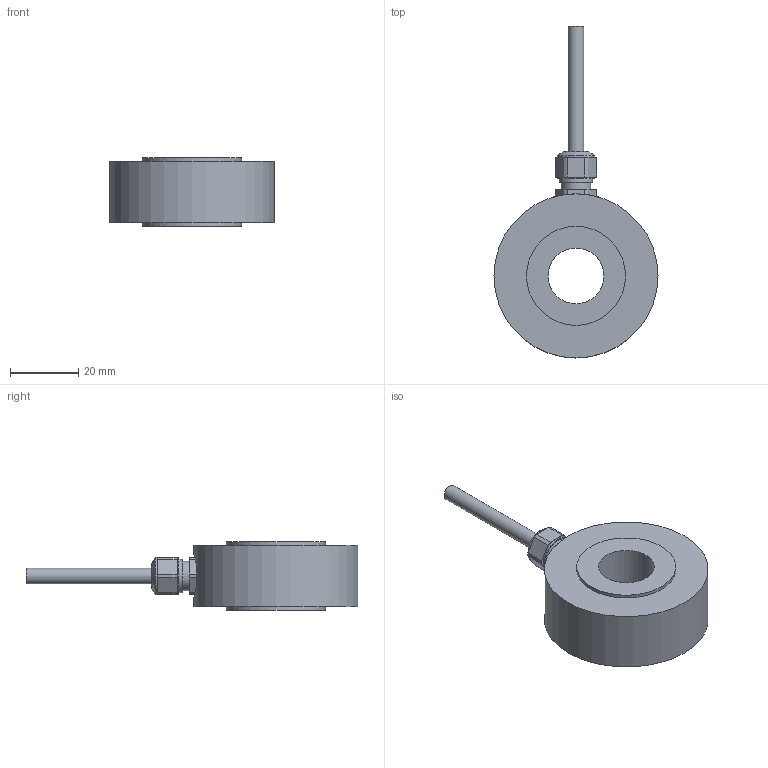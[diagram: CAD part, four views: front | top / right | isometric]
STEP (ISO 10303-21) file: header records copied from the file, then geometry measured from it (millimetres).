
FILE_DESCRIPTION(/* description */ (''),/* implementation_level */ '2;1');
FILE_NAME(/* name */ 'I:/New Datasheets/STEP Models/Pending models/CCG-100kN-003-000.step',/* time_stamp */ '2019-08-16T13:46:29+01:00',/* author */ (''),/* organization */ (''),/* preprocessor_version */ 'ST-DEVELOPER v18',/* originating_system */ 'Autodesk Translation Framework v8.6.0.1094',/* authorisation */ '');
FILE_SCHEMA (('AUTOMOTIVE_DESIGN { 1 0 10303 214 3 1 1 }'));
Length unit declared in the file: millimetre
Products named in the file (2): CCG-100kN-003-000 -; CCG-100kN-003-000
Assembly tree (1 placements, depth 2):
  CCG-100kN-003-000 -
    CCG-100kN-003-000
Bounding box: 48 x 97.13 x 20 mm (x, y, z)
Volume: 31106 mm3; surface area: 9092.1 mm2
Topology: 1 solids, 5 shells, 87 faces, 216 edges, 151 vertices
Faces by surface type: plane 34, cylinder 32, cone 12, torus 9
Full cylindrical faces by diameter (mm): 4.6 x2, 5.1 x1, 5.2 x1, 6.466 x2, 6.7 x1, 6.779 x2, 8.596 x1, 9 x1, 9.15 x1, 9.794 x1, 10.9 x2, 13 x1, 16.3 x1, 29 x2, 48 x1
Entity records: 2766 total; most frequent: CARTESIAN_POINT 515, DIRECTION 514, ORIENTED_EDGE 430, AXIS2_PLACEMENT_3D 223, EDGE_CURVE 215, VERTEX_POINT 151, CIRCLE 133, EDGE_LOOP 108
